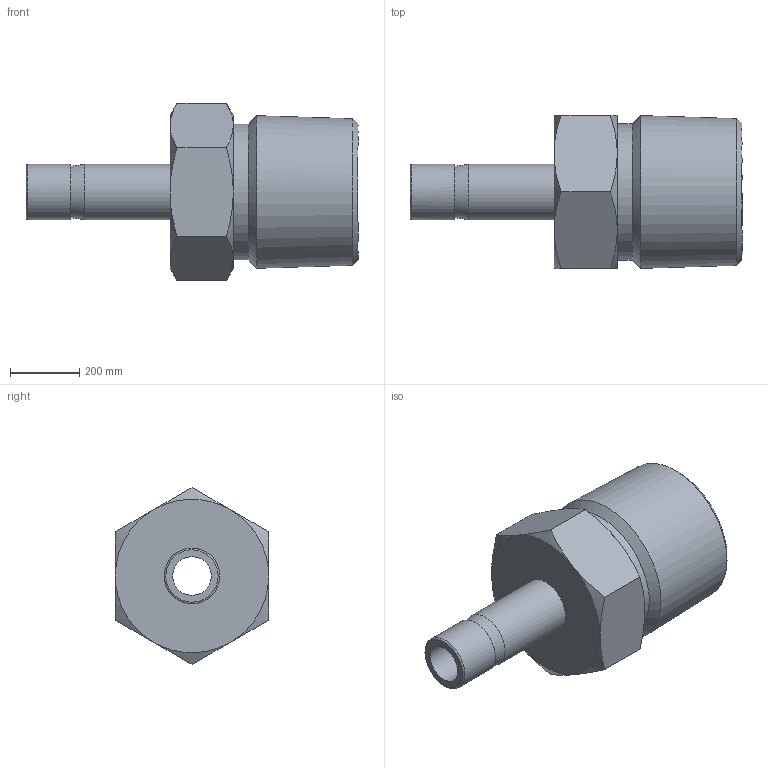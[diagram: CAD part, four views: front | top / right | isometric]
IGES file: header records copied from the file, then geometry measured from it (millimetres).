
Global section: file name: SMA-4-6N; native system: Autodesk Inventor 2016; preprocessor: unknown; author: DESIGNPC2; date: 20151221.091956; units: millimetre
Bounding box: 960.12 x 443.48 x 512.09 mm (x, y, z)
Volume: 81553083.4 mm3; surface area: 1639647.2 mm2
Topology: 1 solids, 1 shells, 33 faces, 81 edges, 53 vertices
Faces by surface type: bspline 33
